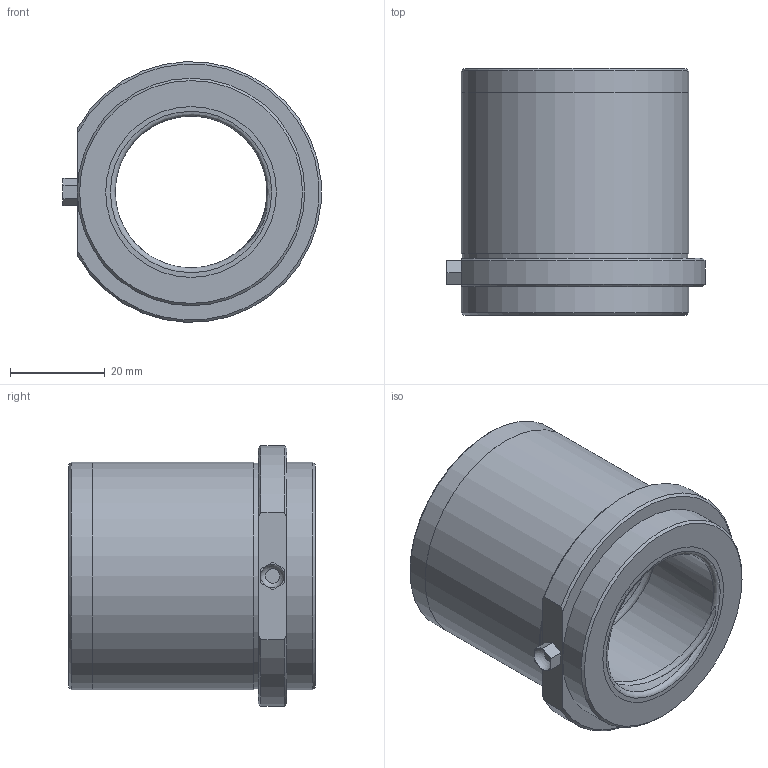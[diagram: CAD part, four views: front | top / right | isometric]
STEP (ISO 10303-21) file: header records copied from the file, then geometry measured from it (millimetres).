
FILE_DESCRIPTION( ( 'STEP AP203' ), '1' );
FILE_NAME( 'C:/Documents and Settings/EXPER/Desktop/Cuma/24 03 2009/D26/D26_32X40.step', '2003-01-02T03:30:54', ( ' ' ), ( ' ' ), 'XStep 1.0', ' ', ' ' );
FILE_SCHEMA( ( 'CONFIG_CONTROL_DESIGN' ) );
Length unit declared in the file: metre
Products named in the file (3): 1; 2; 3
Bounding box: 54.4 x 52 x 54.95 mm (x, y, z)
Volume: 55025.7 mm3; surface area: 27745.9 mm2
Topology: 3 solids, 3 shells, 49 faces, 105 edges, 67 vertices
Faces by surface type: plane 24, cylinder 10, cone 7, torus 6, sphere 1, bspline 1
Full cylindrical faces by diameter (mm): 4 x2, 34 x2, 47.5 x1, 47.98 x2, 48 x1
Entity records: 3105 total; most frequent: CARTESIAN_POINT 2016, DIRECTION 206, ORIENTED_EDGE 154, AXIS2_PLACEMENT_3D 89, EDGE_LOOP 82, EDGE_CURVE 77, FACE_OUTER_BOUND 63, VERTEX_POINT 59
